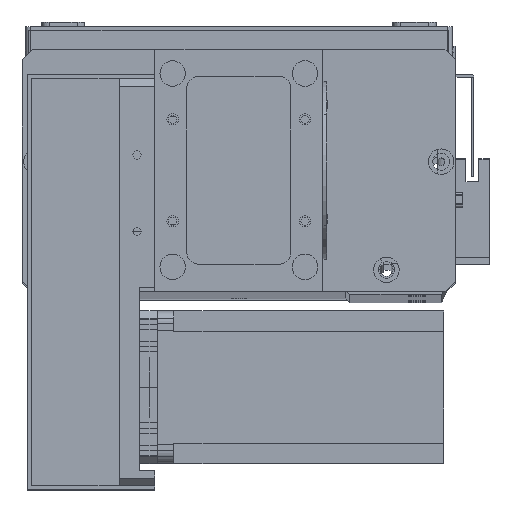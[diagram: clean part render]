
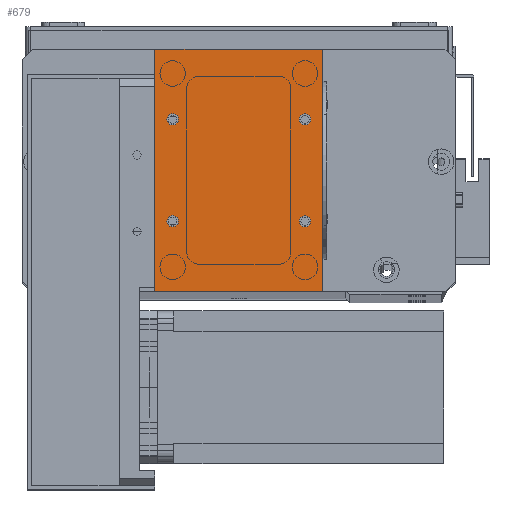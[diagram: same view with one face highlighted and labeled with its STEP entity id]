
A CAD part, top view. The second image highlights one B-rep face of the part: STEP entity #679.
In plain terms, the highlighted planar face has unit normal (0, 0, 1).
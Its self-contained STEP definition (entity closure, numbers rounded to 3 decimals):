
#201 = AXIS2_PLACEMENT_3D ( 'NONE', #7601, #22817, #15133 ) ;
#679 = ADVANCED_FACE ( 'NONE', ( #16052, #10106, #9308, #22790, #2481 ), #13409, .F. ) ;
#1192 = VERTEX_POINT ( 'NONE', #30914 ) ;
#1427 = CARTESIAN_POINT ( 'NONE',  ( 59., 27.5, 2. ) ) ;
#1781 = CARTESIAN_POINT ( 'NONE',  ( 59., 67.5, 2. ) ) ;
#1797 = CARTESIAN_POINT ( 'NONE',  ( 56.75, 67.5, 2. ) ) ;
#1888 = VECTOR ( 'NONE', #28898, 1000. ) ;
#1899 = DIRECTION ( 'NONE',  ( 1., 0., 0. ) ) ;
#2238 = AXIS2_PLACEMENT_3D ( 'NONE', #12800, #30577, #28224 ) ;
#2481 = FACE_OUTER_BOUND ( 'NONE', #2890, .T. ) ;
#2515 = DIRECTION ( 'NONE',  ( 1., 0., 0. ) ) ;
#2711 = CIRCLE ( 'NONE', #4656, 2.25 ) ;
#2720 = CARTESIAN_POINT ( 'NONE',  ( 61.25, 67.5, 2. ) ) ;
#2890 = EDGE_LOOP ( 'NONE', ( #29323, #21348, #27706, #26655 ) ) ;
#3491 = CARTESIAN_POINT ( 'NONE',  ( 7., 27.5, 2. ) ) ;
#3773 = EDGE_CURVE ( 'NONE', #27045, #1192, #30887, .T. ) ;
#3858 = EDGE_CURVE ( 'NONE', #3924, #30484, #9002, .T. ) ;
#3924 = VERTEX_POINT ( 'NONE', #25053 ) ;
#3973 = DIRECTION ( 'NONE',  ( 1., 0., 0. ) ) ;
#4268 = CARTESIAN_POINT ( 'NONE',  ( 66., 95., 2. ) ) ;
#4341 = DIRECTION ( 'NONE',  ( 1., 0., 0. ) ) ;
#4451 = DIRECTION ( 'NONE',  ( 1., 0., 0. ) ) ;
#4484 = ORIENTED_EDGE ( 'NONE', *, *, #7919, .F. ) ;
#4489 = CARTESIAN_POINT ( 'NONE',  ( 59., 67.5, 2. ) ) ;
#4656 = AXIS2_PLACEMENT_3D ( 'NONE', #1781, #19581, #4341 ) ;
#4904 = EDGE_LOOP ( 'NONE', ( #20861, #25806 ) ) ;
#5062 = VERTEX_POINT ( 'NONE', #9773 ) ;
#6091 = DIRECTION ( 'NONE',  ( 1., 0., 0. ) ) ;
#6120 = CARTESIAN_POINT ( 'NONE',  ( 0., 0., 2. ) ) ;
#6214 = AXIS2_PLACEMENT_3D ( 'NONE', #32431, #17152, #1899 ) ;
#6348 = ORIENTED_EDGE ( 'NONE', *, *, #3858, .F. ) ;
#7067 = DIRECTION ( 'NONE',  ( 1., 0., 0. ) ) ;
#7601 = CARTESIAN_POINT ( 'NONE',  ( 0., 0., 2. ) ) ;
#7919 = EDGE_CURVE ( 'NONE', #27927, #28351, #29484, .T. ) ;
#8300 = DIRECTION ( 'NONE',  ( -1., 0., 0. ) ) ;
#8338 = EDGE_CURVE ( 'NONE', #31396, #32638, #20711, .T. ) ;
#9002 = CIRCLE ( 'NONE', #6214, 2.25 ) ;
#9063 = EDGE_CURVE ( 'NONE', #28449, #5062, #27024, .T. ) ;
#9308 = FACE_BOUND ( 'NONE', #18381, .T. ) ;
#9595 = DIRECTION ( 'NONE',  ( 0., 0., 1. ) ) ;
#9773 = CARTESIAN_POINT ( 'NONE',  ( 66., 0., 2. ) ) ;
#10106 = FACE_BOUND ( 'NONE', #4904, .T. ) ;
#10710 = VERTEX_POINT ( 'NONE', #1797 ) ;
#11636 = EDGE_CURVE ( 'NONE', #5062, #31396, #31855, .T. ) ;
#12635 = AXIS2_PLACEMENT_3D ( 'NONE', #3491, #21300, #6091 ) ;
#12800 = CARTESIAN_POINT ( 'NONE',  ( 7., 27.5, 2. ) ) ;
#13315 = CARTESIAN_POINT ( 'NONE',  ( 0., 95., 2. ) ) ;
#13409 = PLANE ( 'NONE',  #201 ) ;
#13793 = ORIENTED_EDGE ( 'NONE', *, *, #30848, .F. ) ;
#14621 = AXIS2_PLACEMENT_3D ( 'NONE', #33024, #17767, #2515 ) ;
#15056 = AXIS2_PLACEMENT_3D ( 'NONE', #4489, #22288, #7067 ) ;
#15133 = DIRECTION ( 'NONE',  ( -1., 0., 0. ) ) ;
#15597 = CIRCLE ( 'NONE', #14621, 2.25 ) ;
#15920 = EDGE_CURVE ( 'NONE', #28351, #27927, #29605, .T. ) ;
#16052 = FACE_BOUND ( 'NONE', #21093, .T. ) ;
#16393 = CIRCLE ( 'NONE', #30591, 2.25 ) ;
#16770 = EDGE_CURVE ( 'NONE', #27021, #10710, #2711, .T. ) ;
#17152 = DIRECTION ( 'NONE',  ( 0., 0., 1. ) ) ;
#17229 = EDGE_CURVE ( 'NONE', #32638, #28449, #22189, .T. ) ;
#17646 = EDGE_LOOP ( 'NONE', ( #4484, #26511 ) ) ;
#17767 = DIRECTION ( 'NONE',  ( 0., 0., 1. ) ) ;
#17999 = ORIENTED_EDGE ( 'NONE', *, *, #3773, .F. ) ;
#18381 = EDGE_LOOP ( 'NONE', ( #17999, #13793 ) ) ;
#19219 = DIRECTION ( 'NONE',  ( 0., 0., 1. ) ) ;
#19581 = DIRECTION ( 'NONE',  ( 0., 0., 1. ) ) ;
#19906 = VECTOR ( 'NONE', #8300, 1000. ) ;
#20711 = LINE ( 'NONE', #13315, #19906 ) ;
#20861 = ORIENTED_EDGE ( 'NONE', *, *, #16770, .F. ) ;
#21093 = EDGE_LOOP ( 'NONE', ( #6348, #26091 ) ) ;
#21300 = DIRECTION ( 'NONE',  ( 0., 0., 1. ) ) ;
#21339 = CARTESIAN_POINT ( 'NONE',  ( 4.75, 27.5, 2. ) ) ;
#21348 = ORIENTED_EDGE ( 'NONE', *, *, #9063, .T. ) ;
#22189 = LINE ( 'NONE', #6120, #1888 ) ;
#22288 = DIRECTION ( 'NONE',  ( 0., 0., 1. ) ) ;
#22378 = CARTESIAN_POINT ( 'NONE',  ( 9.25, 27.5, 2. ) ) ;
#22790 = FACE_BOUND ( 'NONE', #17646, .T. ) ;
#22817 = DIRECTION ( 'NONE',  ( 0., 0., -1. ) ) ;
#23212 = CARTESIAN_POINT ( 'NONE',  ( 61.25, 27.5, 2. ) ) ;
#23266 = CIRCLE ( 'NONE', #15056, 2.25 ) ;
#23897 = AXIS2_PLACEMENT_3D ( 'NONE', #1427, #19219, #3973 ) ;
#24345 = CARTESIAN_POINT ( 'NONE',  ( 0., 0., 2. ) ) ;
#24805 = CARTESIAN_POINT ( 'NONE',  ( 59., 27.5, 2. ) ) ;
#25053 = CARTESIAN_POINT ( 'NONE',  ( 9.25, 67.5, 2. ) ) ;
#25073 = VECTOR ( 'NONE', #31601, 1000. ) ;
#25146 = CARTESIAN_POINT ( 'NONE',  ( 0., 0., 2. ) ) ;
#25806 = ORIENTED_EDGE ( 'NONE', *, *, #27401, .F. ) ;
#26091 = ORIENTED_EDGE ( 'NONE', *, *, #30979, .F. ) ;
#26178 = CARTESIAN_POINT ( 'NONE',  ( 0., 95., 2. ) ) ;
#26225 = VECTOR ( 'NONE', #4451, 1000. ) ;
#26444 = CARTESIAN_POINT ( 'NONE',  ( 66., 0., 2. ) ) ;
#26511 = ORIENTED_EDGE ( 'NONE', *, *, #15920, .F. ) ;
#26655 = ORIENTED_EDGE ( 'NONE', *, *, #8338, .T. ) ;
#27021 = VERTEX_POINT ( 'NONE', #2720 ) ;
#27024 = LINE ( 'NONE', #25146, #26225 ) ;
#27045 = VERTEX_POINT ( 'NONE', #23212 ) ;
#27343 = DIRECTION ( 'NONE',  ( 1., 0., 0. ) ) ;
#27401 = EDGE_CURVE ( 'NONE', #10710, #27021, #23266, .T. ) ;
#27706 = ORIENTED_EDGE ( 'NONE', *, *, #11636, .T. ) ;
#27927 = VERTEX_POINT ( 'NONE', #22378 ) ;
#28224 = DIRECTION ( 'NONE',  ( 1., 0., 0. ) ) ;
#28351 = VERTEX_POINT ( 'NONE', #21339 ) ;
#28380 = CARTESIAN_POINT ( 'NONE',  ( 4.75, 67.5, 2. ) ) ;
#28449 = VERTEX_POINT ( 'NONE', #24345 ) ;
#28898 = DIRECTION ( 'NONE',  ( 0., -1., 0. ) ) ;
#29323 = ORIENTED_EDGE ( 'NONE', *, *, #17229, .T. ) ;
#29484 = CIRCLE ( 'NONE', #2238, 2.25 ) ;
#29605 = CIRCLE ( 'NONE', #12635, 2.25 ) ;
#30484 = VERTEX_POINT ( 'NONE', #28380 ) ;
#30577 = DIRECTION ( 'NONE',  ( 0., 0., 1. ) ) ;
#30591 = AXIS2_PLACEMENT_3D ( 'NONE', #24805, #9595, #27343 ) ;
#30848 = EDGE_CURVE ( 'NONE', #1192, #27045, #16393, .T. ) ;
#30887 = CIRCLE ( 'NONE', #23897, 2.25 ) ;
#30914 = CARTESIAN_POINT ( 'NONE',  ( 56.75, 27.5, 2. ) ) ;
#30979 = EDGE_CURVE ( 'NONE', #30484, #3924, #15597, .T. ) ;
#31396 = VERTEX_POINT ( 'NONE', #4268 ) ;
#31601 = DIRECTION ( 'NONE',  ( 0., 1., 0. ) ) ;
#31855 = LINE ( 'NONE', #26444, #25073 ) ;
#32431 = CARTESIAN_POINT ( 'NONE',  ( 7., 67.5, 2. ) ) ;
#32638 = VERTEX_POINT ( 'NONE', #26178 ) ;
#33024 = CARTESIAN_POINT ( 'NONE',  ( 7., 67.5, 2. ) ) ;
